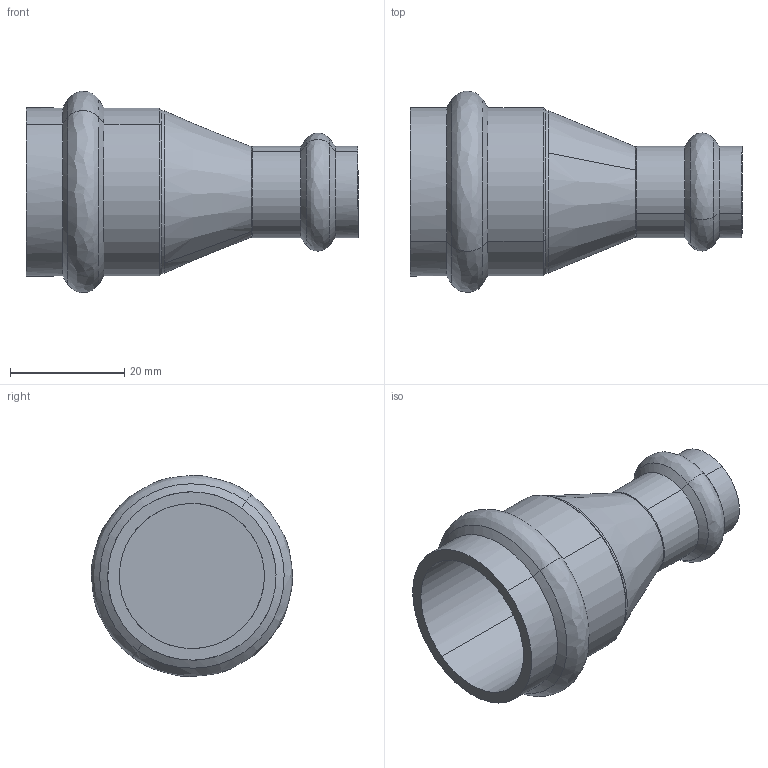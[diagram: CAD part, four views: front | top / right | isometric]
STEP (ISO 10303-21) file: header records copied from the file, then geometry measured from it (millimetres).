
FILE_DESCRIPTION(('STEP AP214'),'1');
FILE_NAME('pim0004374.stp','2015-04-30T11:11:24',('Cad-Pim'),('TransMagic, Inc.'),'TMR11sp0','TransMagic R11',' ');
FILE_SCHEMA(('AUTOMOTIVE_DESIGN'));
Length unit declared in the file: millimetre
Products named in the file (1): pim0004374
Bounding box: 58 x 35.2 x 35.16 mm (x, y, z)
Volume: 14248.3 mm3; surface area: 8277.6 mm2
Topology: 1 solids, 1 shells, 35 faces, 93 edges, 62 vertices
Faces by surface type: cone 14, cylinder 12, bspline 9
Entity records: 1770 total; most frequent: CARTESIAN_POINT 731, ORIENTED_EDGE 186, DIRECTION 126, EDGE_CURVE 93, VERTEX_POINT 62, AXIS2_PLACEMENT_3D 50, EDGE_LOOP 37, STYLED_ITEM 36
